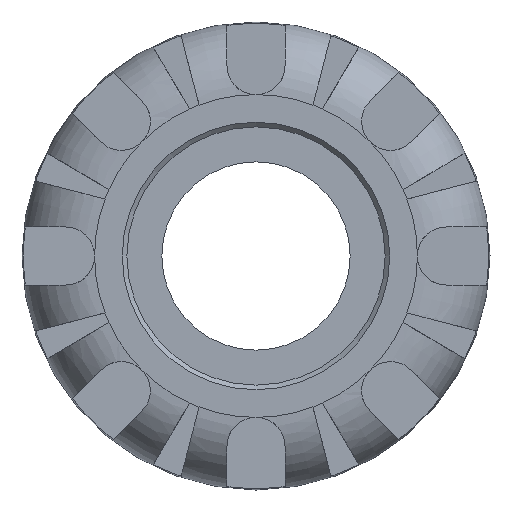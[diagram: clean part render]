
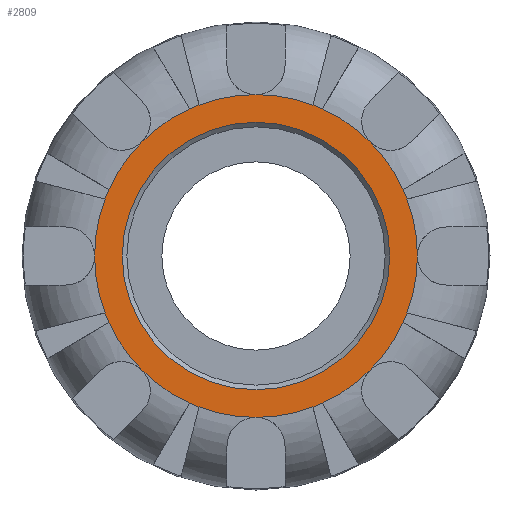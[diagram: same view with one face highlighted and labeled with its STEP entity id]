
A CAD part, left-side view. The second image highlights one B-rep face of the part: STEP entity #2809.
In plain terms, the highlighted planar face has unit normal (-1, 0, 0).
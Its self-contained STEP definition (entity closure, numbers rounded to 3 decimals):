
#25=FACE_BOUND('',#490,.T.);
#114=CIRCLE('',#3048,16.58);
#115=CIRCLE('',#3050,20.);
#116=CIRCLE('',#3051,20.);
#117=CIRCLE('',#3052,20.);
#118=CIRCLE('',#3053,20.);
#119=CIRCLE('',#3054,20.);
#120=CIRCLE('',#3055,20.);
#121=CIRCLE('',#3056,20.);
#122=CIRCLE('',#3057,20.);
#123=CIRCLE('',#3058,20.);
#124=CIRCLE('',#3059,20.);
#125=CIRCLE('',#3060,20.);
#126=CIRCLE('',#3061,20.);
#127=CIRCLE('',#3062,20.);
#128=CIRCLE('',#3063,20.);
#129=CIRCLE('',#3064,20.);
#130=CIRCLE('',#3065,20.);
#131=CIRCLE('',#3066,20.);
#132=CIRCLE('',#3067,20.);
#133=CIRCLE('',#3068,20.);
#134=CIRCLE('',#3069,20.);
#135=CIRCLE('',#3070,20.);
#136=CIRCLE('',#3071,20.);
#137=CIRCLE('',#3072,20.);
#138=CIRCLE('',#3073,20.);
#320=FACE_OUTER_BOUND('',#489,.T.);
#489=EDGE_LOOP('',(#2048,#2049,#2050,#2051,#2052,#2053,#2054,#2055,#2056,
#2057,#2058,#2059,#2060,#2061,#2062,#2063,#2064,#2065,#2066,#2067,#2068,
#2069,#2070,#2071));
#490=EDGE_LOOP('',(#2072));
#1115=VERTEX_POINT('',#5261);
#1116=VERTEX_POINT('',#5264);
#1117=VERTEX_POINT('',#5265);
#1118=VERTEX_POINT('',#5267);
#1119=VERTEX_POINT('',#5269);
#1120=VERTEX_POINT('',#5271);
#1121=VERTEX_POINT('',#5273);
#1122=VERTEX_POINT('',#5275);
#1123=VERTEX_POINT('',#5277);
#1124=VERTEX_POINT('',#5279);
#1125=VERTEX_POINT('',#5281);
#1126=VERTEX_POINT('',#5283);
#1127=VERTEX_POINT('',#5285);
#1128=VERTEX_POINT('',#5287);
#1129=VERTEX_POINT('',#5289);
#1130=VERTEX_POINT('',#5291);
#1131=VERTEX_POINT('',#5293);
#1132=VERTEX_POINT('',#5295);
#1133=VERTEX_POINT('',#5297);
#1134=VERTEX_POINT('',#5299);
#1135=VERTEX_POINT('',#5301);
#1136=VERTEX_POINT('',#5303);
#1137=VERTEX_POINT('',#5305);
#1138=VERTEX_POINT('',#5307);
#1139=VERTEX_POINT('',#5309);
#1449=EDGE_CURVE('',#1115,#1115,#114,.T.);
#1450=EDGE_CURVE('',#1116,#1117,#115,.T.);
#1451=EDGE_CURVE('',#1118,#1116,#116,.T.);
#1452=EDGE_CURVE('',#1119,#1118,#117,.T.);
#1453=EDGE_CURVE('',#1120,#1119,#118,.T.);
#1454=EDGE_CURVE('',#1121,#1120,#119,.T.);
#1455=EDGE_CURVE('',#1122,#1121,#120,.T.);
#1456=EDGE_CURVE('',#1123,#1122,#121,.T.);
#1457=EDGE_CURVE('',#1124,#1123,#122,.T.);
#1458=EDGE_CURVE('',#1125,#1124,#123,.T.);
#1459=EDGE_CURVE('',#1126,#1125,#124,.T.);
#1460=EDGE_CURVE('',#1127,#1126,#125,.T.);
#1461=EDGE_CURVE('',#1128,#1127,#126,.T.);
#1462=EDGE_CURVE('',#1129,#1128,#127,.T.);
#1463=EDGE_CURVE('',#1130,#1129,#128,.T.);
#1464=EDGE_CURVE('',#1131,#1130,#129,.T.);
#1465=EDGE_CURVE('',#1132,#1131,#130,.T.);
#1466=EDGE_CURVE('',#1133,#1132,#131,.T.);
#1467=EDGE_CURVE('',#1134,#1133,#132,.T.);
#1468=EDGE_CURVE('',#1135,#1134,#133,.T.);
#1469=EDGE_CURVE('',#1136,#1135,#134,.T.);
#1470=EDGE_CURVE('',#1137,#1136,#135,.T.);
#1471=EDGE_CURVE('',#1138,#1137,#136,.T.);
#1472=EDGE_CURVE('',#1139,#1138,#137,.T.);
#1473=EDGE_CURVE('',#1117,#1139,#138,.T.);
#2048=ORIENTED_EDGE('',*,*,#1450,.F.);
#2049=ORIENTED_EDGE('',*,*,#1451,.F.);
#2050=ORIENTED_EDGE('',*,*,#1452,.F.);
#2051=ORIENTED_EDGE('',*,*,#1453,.F.);
#2052=ORIENTED_EDGE('',*,*,#1454,.F.);
#2053=ORIENTED_EDGE('',*,*,#1455,.F.);
#2054=ORIENTED_EDGE('',*,*,#1456,.F.);
#2055=ORIENTED_EDGE('',*,*,#1457,.F.);
#2056=ORIENTED_EDGE('',*,*,#1458,.F.);
#2057=ORIENTED_EDGE('',*,*,#1459,.F.);
#2058=ORIENTED_EDGE('',*,*,#1460,.F.);
#2059=ORIENTED_EDGE('',*,*,#1461,.F.);
#2060=ORIENTED_EDGE('',*,*,#1462,.F.);
#2061=ORIENTED_EDGE('',*,*,#1463,.F.);
#2062=ORIENTED_EDGE('',*,*,#1464,.F.);
#2063=ORIENTED_EDGE('',*,*,#1465,.F.);
#2064=ORIENTED_EDGE('',*,*,#1466,.F.);
#2065=ORIENTED_EDGE('',*,*,#1467,.F.);
#2066=ORIENTED_EDGE('',*,*,#1468,.F.);
#2067=ORIENTED_EDGE('',*,*,#1469,.F.);
#2068=ORIENTED_EDGE('',*,*,#1470,.F.);
#2069=ORIENTED_EDGE('',*,*,#1471,.F.);
#2070=ORIENTED_EDGE('',*,*,#1472,.F.);
#2071=ORIENTED_EDGE('',*,*,#1473,.F.);
#2072=ORIENTED_EDGE('',*,*,#1449,.F.);
#2507=PLANE('',#3049);
#2809=ADVANCED_FACE('',(#320,#25),#2507,.T.);
#3048=AXIS2_PLACEMENT_3D('',#5262,#3591,#3592);
#3049=AXIS2_PLACEMENT_3D('',#5263,#3593,#3594);
#3050=AXIS2_PLACEMENT_3D('',#5266,#3595,#3596);
#3051=AXIS2_PLACEMENT_3D('',#5268,#3597,#3598);
#3052=AXIS2_PLACEMENT_3D('',#5270,#3599,#3600);
#3053=AXIS2_PLACEMENT_3D('',#5272,#3601,#3602);
#3054=AXIS2_PLACEMENT_3D('',#5274,#3603,#3604);
#3055=AXIS2_PLACEMENT_3D('',#5276,#3605,#3606);
#3056=AXIS2_PLACEMENT_3D('',#5278,#3607,#3608);
#3057=AXIS2_PLACEMENT_3D('',#5280,#3609,#3610);
#3058=AXIS2_PLACEMENT_3D('',#5282,#3611,#3612);
#3059=AXIS2_PLACEMENT_3D('',#5284,#3613,#3614);
#3060=AXIS2_PLACEMENT_3D('',#5286,#3615,#3616);
#3061=AXIS2_PLACEMENT_3D('',#5288,#3617,#3618);
#3062=AXIS2_PLACEMENT_3D('',#5290,#3619,#3620);
#3063=AXIS2_PLACEMENT_3D('',#5292,#3621,#3622);
#3064=AXIS2_PLACEMENT_3D('',#5294,#3623,#3624);
#3065=AXIS2_PLACEMENT_3D('',#5296,#3625,#3626);
#3066=AXIS2_PLACEMENT_3D('',#5298,#3627,#3628);
#3067=AXIS2_PLACEMENT_3D('',#5300,#3629,#3630);
#3068=AXIS2_PLACEMENT_3D('',#5302,#3631,#3632);
#3069=AXIS2_PLACEMENT_3D('',#5304,#3633,#3634);
#3070=AXIS2_PLACEMENT_3D('',#5306,#3635,#3636);
#3071=AXIS2_PLACEMENT_3D('',#5308,#3637,#3638);
#3072=AXIS2_PLACEMENT_3D('',#5310,#3639,#3640);
#3073=AXIS2_PLACEMENT_3D('',#5311,#3641,#3642);
#3591=DIRECTION('center_axis',(-1.,0.,0.));
#3592=DIRECTION('ref_axis',(0.,-1.,0.));
#3593=DIRECTION('center_axis',(-1.,0.,0.));
#3594=DIRECTION('ref_axis',(0.,0.,1.));
#3595=DIRECTION('center_axis',(1.,0.,0.));
#3596=DIRECTION('ref_axis',(0.,0.,-1.));
#3597=DIRECTION('center_axis',(1.,0.,0.));
#3598=DIRECTION('ref_axis',(0.,0.,-1.));
#3599=DIRECTION('center_axis',(1.,0.,0.));
#3600=DIRECTION('ref_axis',(0.,0.,-1.));
#3601=DIRECTION('center_axis',(1.,0.,0.));
#3602=DIRECTION('ref_axis',(0.,0.,-1.));
#3603=DIRECTION('center_axis',(1.,0.,0.));
#3604=DIRECTION('ref_axis',(0.,0.,-1.));
#3605=DIRECTION('center_axis',(1.,0.,0.));
#3606=DIRECTION('ref_axis',(0.,0.,-1.));
#3607=DIRECTION('center_axis',(1.,0.,0.));
#3608=DIRECTION('ref_axis',(0.,0.,-1.));
#3609=DIRECTION('center_axis',(1.,0.,0.));
#3610=DIRECTION('ref_axis',(0.,0.,-1.));
#3611=DIRECTION('center_axis',(1.,0.,0.));
#3612=DIRECTION('ref_axis',(0.,0.,-1.));
#3613=DIRECTION('center_axis',(1.,0.,0.));
#3614=DIRECTION('ref_axis',(0.,0.,-1.));
#3615=DIRECTION('center_axis',(1.,0.,0.));
#3616=DIRECTION('ref_axis',(0.,0.,-1.));
#3617=DIRECTION('center_axis',(1.,0.,0.));
#3618=DIRECTION('ref_axis',(0.,0.,-1.));
#3619=DIRECTION('center_axis',(1.,0.,0.));
#3620=DIRECTION('ref_axis',(0.,0.,-1.));
#3621=DIRECTION('center_axis',(1.,0.,0.));
#3622=DIRECTION('ref_axis',(0.,0.,-1.));
#3623=DIRECTION('center_axis',(1.,0.,0.));
#3624=DIRECTION('ref_axis',(0.,0.,-1.));
#3625=DIRECTION('center_axis',(1.,0.,0.));
#3626=DIRECTION('ref_axis',(0.,0.,-1.));
#3627=DIRECTION('center_axis',(1.,0.,0.));
#3628=DIRECTION('ref_axis',(0.,0.,-1.));
#3629=DIRECTION('center_axis',(1.,0.,0.));
#3630=DIRECTION('ref_axis',(0.,0.,-1.));
#3631=DIRECTION('center_axis',(1.,0.,0.));
#3632=DIRECTION('ref_axis',(0.,0.,-1.));
#3633=DIRECTION('center_axis',(1.,0.,0.));
#3634=DIRECTION('ref_axis',(0.,0.,-1.));
#3635=DIRECTION('center_axis',(1.,0.,0.));
#3636=DIRECTION('ref_axis',(0.,0.,-1.));
#3637=DIRECTION('center_axis',(1.,0.,0.));
#3638=DIRECTION('ref_axis',(0.,0.,-1.));
#3639=DIRECTION('center_axis',(1.,0.,0.));
#3640=DIRECTION('ref_axis',(0.,0.,-1.));
#3641=DIRECTION('center_axis',(1.,0.,0.));
#3642=DIRECTION('ref_axis',(0.,0.,-1.));
#5261=CARTESIAN_POINT('',(-54.,16.58,0.));
#5262=CARTESIAN_POINT('Origin',(-54.,0.,0.));
#5263=CARTESIAN_POINT('Origin',(-54.,20.,0.));
#5264=CARTESIAN_POINT('',(-54.,20.,0.));
#5265=CARTESIAN_POINT('',(-54.,18.713,7.058));
#5266=CARTESIAN_POINT('Origin',(-54.,0.,0.));
#5267=CARTESIAN_POINT('',(-54.,18.713,-7.058));
#5268=CARTESIAN_POINT('Origin',(-54.,0.,0.));
#5269=CARTESIAN_POINT('',(-54.,18.223,-8.241));
#5270=CARTESIAN_POINT('Origin',(-54.,0.,0.));
#5271=CARTESIAN_POINT('',(-54.,14.142,-14.142));
#5272=CARTESIAN_POINT('Origin',(-54.,0.,0.));
#5273=CARTESIAN_POINT('',(-54.,8.241,-18.223));
#5274=CARTESIAN_POINT('Origin',(-54.,0.,0.));
#5275=CARTESIAN_POINT('',(-54.,7.058,-18.713));
#5276=CARTESIAN_POINT('Origin',(-54.,0.,0.));
#5277=CARTESIAN_POINT('',(-54.,0.,-20.));
#5278=CARTESIAN_POINT('Origin',(-54.,0.,0.));
#5279=CARTESIAN_POINT('',(-54.,-7.058,-18.713));
#5280=CARTESIAN_POINT('Origin',(-54.,0.,0.));
#5281=CARTESIAN_POINT('',(-54.,-8.241,-18.223));
#5282=CARTESIAN_POINT('Origin',(-54.,0.,0.));
#5283=CARTESIAN_POINT('',(-54.,-14.142,-14.142));
#5284=CARTESIAN_POINT('Origin',(-54.,0.,0.));
#5285=CARTESIAN_POINT('',(-54.,-18.223,-8.241));
#5286=CARTESIAN_POINT('Origin',(-54.,0.,0.));
#5287=CARTESIAN_POINT('',(-54.,-18.713,-7.058));
#5288=CARTESIAN_POINT('Origin',(-54.,0.,0.));
#5289=CARTESIAN_POINT('',(-54.,-20.,0.));
#5290=CARTESIAN_POINT('Origin',(-54.,0.,0.));
#5291=CARTESIAN_POINT('',(-54.,-18.713,7.058));
#5292=CARTESIAN_POINT('Origin',(-54.,0.,0.));
#5293=CARTESIAN_POINT('',(-54.,-18.223,8.241));
#5294=CARTESIAN_POINT('Origin',(-54.,0.,0.));
#5295=CARTESIAN_POINT('',(-54.,-14.142,14.142));
#5296=CARTESIAN_POINT('Origin',(-54.,0.,0.));
#5297=CARTESIAN_POINT('',(-54.,-8.241,18.223));
#5298=CARTESIAN_POINT('Origin',(-54.,0.,0.));
#5299=CARTESIAN_POINT('',(-54.,-7.058,18.713));
#5300=CARTESIAN_POINT('Origin',(-54.,0.,0.));
#5301=CARTESIAN_POINT('',(-54.,0.,20.));
#5302=CARTESIAN_POINT('Origin',(-54.,0.,0.));
#5303=CARTESIAN_POINT('',(-54.,7.058,18.713));
#5304=CARTESIAN_POINT('Origin',(-54.,0.,0.));
#5305=CARTESIAN_POINT('',(-54.,8.241,18.223));
#5306=CARTESIAN_POINT('Origin',(-54.,0.,0.));
#5307=CARTESIAN_POINT('',(-54.,14.142,14.142));
#5308=CARTESIAN_POINT('Origin',(-54.,0.,0.));
#5309=CARTESIAN_POINT('',(-54.,18.223,8.241));
#5310=CARTESIAN_POINT('Origin',(-54.,0.,0.));
#5311=CARTESIAN_POINT('Origin',(-54.,0.,0.));
